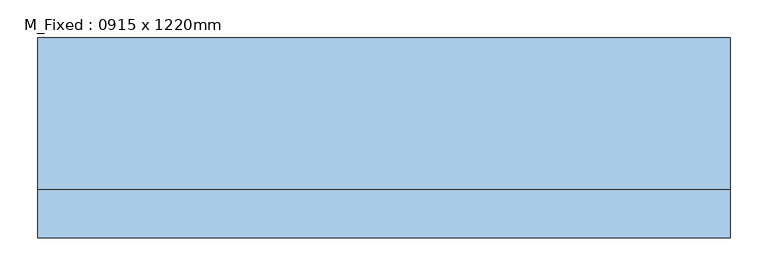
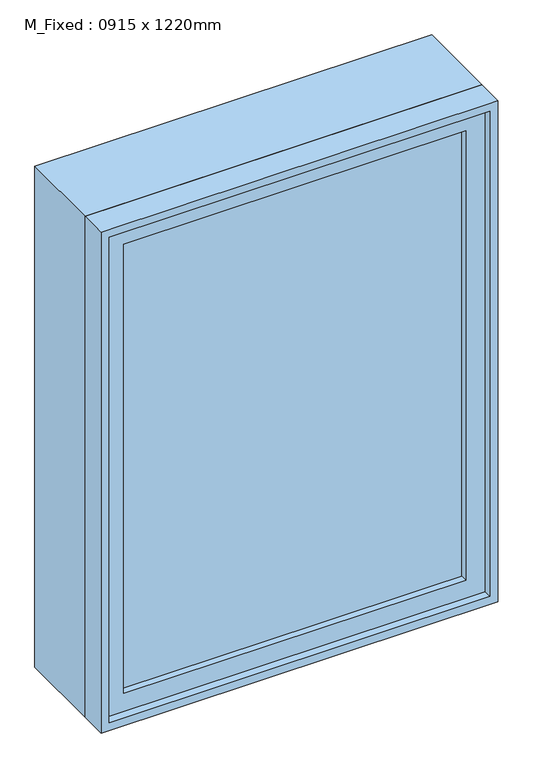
"""IFC4 building model written with IfcOpenShell, lengths in millimetres: window geometry, M_Fixed : 0915 x 1220mm."""

from ifc_helpers import new_model, si_unit, frame, origin, place, context, project, spatial, polyline, outline, extrude, source, transform, mapped, element, save


def m_fixed_0915_x_1220mm_db24ddbb(model_context):
    return source(origin(), model_context, "Body", "SweptSolid", [
        extrude(outline(polyline([(-394.5, -110.0), (-394.5, -98.0), (394.5, -98.0), (394.5, -110.0), (-394.5, -110.0)])), frame((0.0, 0.0, 978.0), z_axis=(0.0, 0.0, 1.0), x_axis=(1.0, 0.0, 0.0)), (0.0, 0.0, 1.0), 1094.0),
        extrude(outline(polyline([(2116.0, -438.5), (934.0, -438.5), (934.0, 438.5), (2116.0, 438.5), (2116.0, -438.5)]), holes=[polyline([(2072.0, -394.5), (2072.0, 394.5), (978.0, 394.5), (978.0, -394.5), (2072.0, -394.5)])]), frame((0.0, -126.0, 0.0), z_axis=(0.0, 1.0, 0.0), x_axis=(0.0, 0.0, 1.0)), (0.0, 0.0, 1.0), 44.0),
        extrude(outline(polyline([(2135.0, -457.5), (915.0, -457.5), (915.0, 457.5), (2135.0, 457.5), (2135.0, -457.5)]), holes=[polyline([(2116.0, -438.5), (2116.0, 438.5), (934.0, 438.5), (934.0, -438.5), (2116.0, -438.5)])]), frame((0.0, -145.0, 0.0), z_axis=(0.0, 1.0, 0.0), x_axis=(0.0, 0.0, 1.0)), (0.0, 0.0, 1.0), 63.0),
        extrude(outline(polyline([(2135.0, -457.5), (915.0, -457.5), (915.0, 457.5), (2135.0, 457.5), (2135.0, -457.5)]), holes=[polyline([(2103.0, -425.5), (2103.0, 425.5), (947.0, 425.5), (947.0, -425.5), (2103.0, -425.5)])]), frame((0.0, -82.0, 0.0), z_axis=(0.0, 1.0, 0.0), x_axis=(0.0, 0.0, 1.0)), (0.0, 0.0, 1.0), 201.0),
    ])


if __name__ == "__main__":
    model = new_model("IFC4")
    model_context = context("Model", 3, world=origin())
    ifc_project = project(units=[si_unit("LENGTHUNIT", "METRE", prefix="MILLI")], contexts=[model_context])
    site = spatial("IfcSite", under=ifc_project)
    building = spatial("IfcBuilding", under=site)
    placement = place(None, origin())
    m_fixed_0915_x_1220mm_shape = m_fixed_0915_x_1220mm_db24ddbb(model_context)
    element("IfcWindow", 1, ObjectType="M_Fixed : 0915 x 1220mm", at=placement, inside=building, context=model_context, shape_type="MappedRepresentation", body=[
        mapped(m_fixed_0915_x_1220mm_shape, transform((0.0, 0.0, 0.0), x_axis=(1.0, 0.0, 0.0), y_axis=(0.0, 1.0, 0.0), z_axis=(0.0, 0.0, 1.0))),
    ])
    save(model, "model.ifc")
